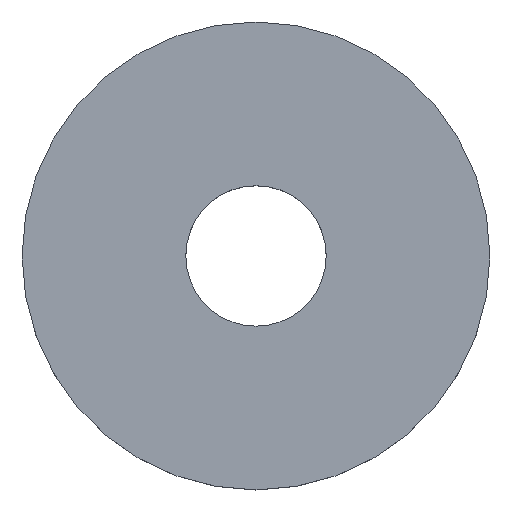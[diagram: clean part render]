
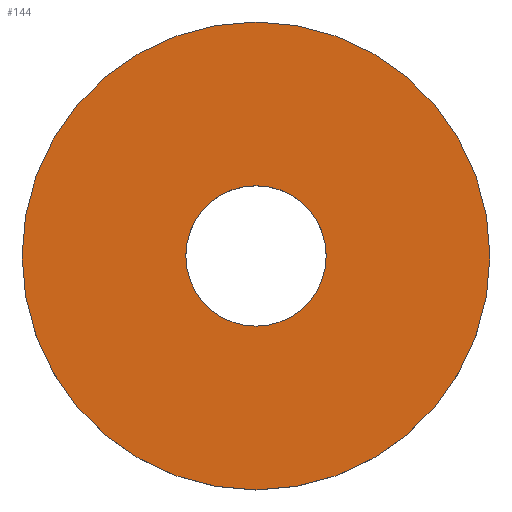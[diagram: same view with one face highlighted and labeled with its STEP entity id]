
A CAD part, top view. The second image highlights one B-rep face of the part: STEP entity #144.
In plain terms, the highlighted planar face has unit normal (0, 0, 1).
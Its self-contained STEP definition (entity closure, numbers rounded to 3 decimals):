
#31 = CYLINDRICAL_SURFACE('',#32,3.);
#32 = AXIS2_PLACEMENT_3D('',#33,#34,#35);
#33 = CARTESIAN_POINT('',(-24.,-25.262,10.53));
#34 = DIRECTION('',(-0.,-0.,-1.));
#35 = DIRECTION('',(1.,0.,0.));
#56 = VERTEX_POINT('',#57);
#57 = CARTESIAN_POINT('',(-21.,-25.262,11.23));
#78 = EDGE_CURVE('',#56,#56,#79,.T.);
#79 = SURFACE_CURVE('',#80,(#85,#92),.PCURVE_S1.);
#80 = CIRCLE('',#81,3.);
#81 = AXIS2_PLACEMENT_3D('',#82,#83,#84);
#82 = CARTESIAN_POINT('',(-24.,-25.262,11.23));
#83 = DIRECTION('',(0.,0.,1.));
#84 = DIRECTION('',(1.,0.,-0.));
#85 = PCURVE('',#31,#86);
#86 = DEFINITIONAL_REPRESENTATION('',(#87),#91);
#87 = LINE('',#88,#89);
#88 = CARTESIAN_POINT('',(6.283,-0.7));
#89 = VECTOR('',#90,1.);
#90 = DIRECTION('',(-1.,0.));
#91 = ( GEOMETRIC_REPRESENTATION_CONTEXT(2) 
PARAMETRIC_REPRESENTATION_CONTEXT() REPRESENTATION_CONTEXT('2D SPACE',''
  ) );
#92 = PCURVE('',#93,#98);
#93 = PLANE('',#94);
#94 = AXIS2_PLACEMENT_3D('',#95,#96,#97);
#95 = CARTESIAN_POINT('',(-24.,-25.262,11.23));
#96 = DIRECTION('',(0.,0.,1.));
#97 = DIRECTION('',(1.,0.,-0.));
#98 = DEFINITIONAL_REPRESENTATION('',(#99),#103);
#99 = CIRCLE('',#100,3.);
#100 = AXIS2_PLACEMENT_2D('',#101,#102);
#101 = CARTESIAN_POINT('',(0.,0.));
#102 = DIRECTION('',(1.,0.));
#103 = ( GEOMETRIC_REPRESENTATION_CONTEXT(2) 
PARAMETRIC_REPRESENTATION_CONTEXT() REPRESENTATION_CONTEXT('2D SPACE',''
  ) );
#133 = CYLINDRICAL_SURFACE('',#134,0.9);
#134 = AXIS2_PLACEMENT_3D('',#135,#136,#137);
#135 = CARTESIAN_POINT('',(-24.,-25.262,10.3));
#136 = DIRECTION('',(-0.,-0.,-1.));
#137 = DIRECTION('',(1.,0.,0.));
#144 = ADVANCED_FACE('',(#145,#148),#93,.T.);
#145 = FACE_BOUND('',#146,.T.);
#146 = EDGE_LOOP('',(#147));
#147 = ORIENTED_EDGE('',*,*,#78,.T.);
#148 = FACE_BOUND('',#149,.T.);
#149 = EDGE_LOOP('',(#150));
#150 = ORIENTED_EDGE('',*,*,#151,.T.);
#151 = EDGE_CURVE('',#152,#152,#154,.T.);
#152 = VERTEX_POINT('',#153);
#153 = CARTESIAN_POINT('',(-23.1,-25.262,11.23));
#154 = SURFACE_CURVE('',#155,(#160,#171),.PCURVE_S1.);
#155 = CIRCLE('',#156,0.9);
#156 = AXIS2_PLACEMENT_3D('',#157,#158,#159);
#157 = CARTESIAN_POINT('',(-24.,-25.262,11.23));
#158 = DIRECTION('',(0.,0.,-1.));
#159 = DIRECTION('',(1.,0.,0.));
#160 = PCURVE('',#93,#161);
#161 = DEFINITIONAL_REPRESENTATION('',(#162),#170);
#162 = ( BOUNDED_CURVE() B_SPLINE_CURVE(2,(#163,#164,#165,#166,#167,#168
,#169),.UNSPECIFIED.,.T.,.F.) B_SPLINE_CURVE_WITH_KNOTS((1,2,2,2,2,1),(
    -2.094,0.,2.094,4.189,6.283,
8.378),.UNSPECIFIED.) CURVE() GEOMETRIC_REPRESENTATION_ITEM() 
RATIONAL_B_SPLINE_CURVE((1.,0.5,1.,0.5,1.,0.5,1.)) REPRESENTATION_ITEM(
  '') );
#163 = CARTESIAN_POINT('',(0.9,0.));
#164 = CARTESIAN_POINT('',(0.9,-1.559));
#165 = CARTESIAN_POINT('',(-0.45,-0.779));
#166 = CARTESIAN_POINT('',(-1.8,0.));
#167 = CARTESIAN_POINT('',(-0.45,0.779));
#168 = CARTESIAN_POINT('',(0.9,1.559));
#169 = CARTESIAN_POINT('',(0.9,0.));
#170 = ( GEOMETRIC_REPRESENTATION_CONTEXT(2) 
PARAMETRIC_REPRESENTATION_CONTEXT() REPRESENTATION_CONTEXT('2D SPACE',''
  ) );
#171 = PCURVE('',#133,#172);
#172 = DEFINITIONAL_REPRESENTATION('',(#173),#177);
#173 = LINE('',#174,#175);
#174 = CARTESIAN_POINT('',(0.,-0.93));
#175 = VECTOR('',#176,1.);
#176 = DIRECTION('',(1.,-0.));
#177 = ( GEOMETRIC_REPRESENTATION_CONTEXT(2) 
PARAMETRIC_REPRESENTATION_CONTEXT() REPRESENTATION_CONTEXT('2D SPACE',''
  ) );
